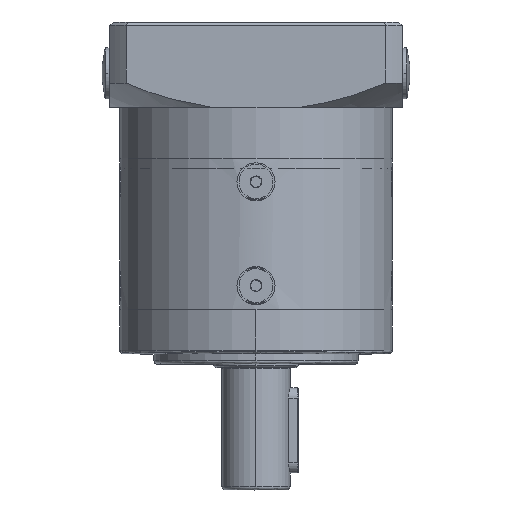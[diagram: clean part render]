
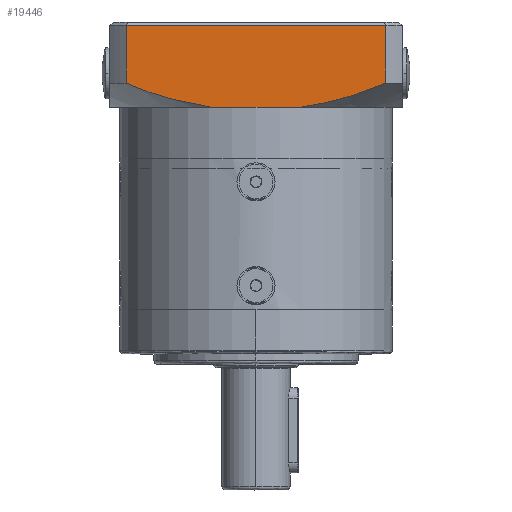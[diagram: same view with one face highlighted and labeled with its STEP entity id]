
A CAD part, top view. The second image highlights one B-rep face of the part: STEP entity #19446.
In plain terms, the highlighted planar face has unit normal (0, 0, 1).
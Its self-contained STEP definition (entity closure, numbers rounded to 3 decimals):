
#1103 = ORIENTED_EDGE ( 'NONE', *, *, #26359, .F. ) ;
#1496 = VERTEX_POINT ( 'NONE', #39712 ) ;
#2713 = DIRECTION ( 'NONE',  ( 0., 0., -1. ) ) ;
#3346 = EDGE_CURVE ( 'NONE', #36709, #24548, #18516, .T. ) ;
#5019 = EDGE_LOOP ( 'NONE', ( #15039, #14403, #24943, #1103, #13486, #9757 ) ) ;
#6006 = B_SPLINE_CURVE_WITH_KNOTS ( 'NONE', 3,
 ( #29050, #38196, #9634, #22404, #22611 ),
 .UNSPECIFIED., .F., .F.,
 ( 4, 1, 4 ),
 ( 0., 0.013, 0.026 ),
 .UNSPECIFIED. ) ;
#8694 = LINE ( 'NONE', #11218, #17109 ) ;
#9634 = CARTESIAN_POINT ( 'NONE',  ( 23.037, 114.882, 55.5 ) ) ;
#9757 = ORIENTED_EDGE ( 'NONE', *, *, #3346, .F. ) ;
#11218 = CARTESIAN_POINT ( 'NONE',  ( 35.174, 137.5, 55.5 ) ) ;
#11770 = CARTESIAN_POINT ( 'NONE',  ( -46., 137.5, 55.5 ) ) ;
#12385 = CARTESIAN_POINT ( 'NONE',  ( -41.174, 119.512, 55.5 ) ) ;
#12695 = B_SPLINE_CURVE_WITH_KNOTS ( 'NONE', 1,
 ( #28413, #37972 ),
 .UNSPECIFIED., .F., .F.,
 ( 2, 2 ),
 ( 0., 1. ),
 .UNSPECIFIED. ) ;
#13486 = ORIENTED_EDGE ( 'NONE', *, *, #27781, .F. ) ;
#14403 = ORIENTED_EDGE ( 'NONE', *, *, #15293, .F. ) ;
#15039 = ORIENTED_EDGE ( 'NONE', *, *, #20194, .F. ) ;
#15107 = CARTESIAN_POINT ( 'NONE',  ( -46., 136.5, 55.5 ) ) ;
#15278 = B_SPLINE_CURVE_WITH_KNOTS ( 'NONE', 3,
 ( #28461, #15930, #38014, #21806, #12385 ),
 .UNSPECIFIED., .F., .F.,
 ( 4, 1, 4 ),
 ( 0., 0.013, 0.026 ),
 .UNSPECIFIED. ) ;
#15293 = EDGE_CURVE ( 'NONE', #1496, #18627, #12695, .T. ) ;
#15910 = DIRECTION ( 'NONE',  ( 1., 0., 0. ) ) ;
#15930 = CARTESIAN_POINT ( 'NONE',  ( -20.577, 113.103, 55.5 ) ) ;
#16971 = AXIS2_PLACEMENT_3D ( 'NONE', #11770, #2713, #37216 ) ;
#17109 = VECTOR ( 'NONE', #40404, 1000. ) ;
#17470 = EDGE_CURVE ( 'NONE', #37470, #1496, #6006, .T. ) ;
#18516 = LINE ( 'NONE', #31195, #23878 ) ;
#18627 = VERTEX_POINT ( 'NONE', #25838 ) ;
#18949 = CARTESIAN_POINT ( 'NONE',  ( 35.174, 119.512, 55.5 ) ) ;
#19446 = ADVANCED_FACE ( 'NONE', ( #40324 ), #22207, .F. ) ;
#20194 = EDGE_CURVE ( 'NONE', #18627, #36709, #15278, .T. ) ;
#20795 = CARTESIAN_POINT ( 'NONE',  ( -41.174, 119.512, 55.5 ) ) ;
#21087 = CARTESIAN_POINT ( 'NONE',  ( 35.174, 136.5, 55.5 ) ) ;
#21806 = CARTESIAN_POINT ( 'NONE',  ( -37.182, 117.777, 55.5 ) ) ;
#22207 = PLANE ( 'NONE',  #16971 ) ;
#22404 = CARTESIAN_POINT ( 'NONE',  ( 14.577, 113.103, 55.5 ) ) ;
#22611 = CARTESIAN_POINT ( 'NONE',  ( 10.266, 112.5, 55.5 ) ) ;
#23878 = VECTOR ( 'NONE', #32000, 1000. ) ;
#24548 = VERTEX_POINT ( 'NONE', #32504 ) ;
#24943 = ORIENTED_EDGE ( 'NONE', *, *, #17470, .F. ) ;
#25838 = CARTESIAN_POINT ( 'NONE',  ( -16.266, 112.5, 55.5 ) ) ;
#26359 = EDGE_CURVE ( 'NONE', #29349, #37470, #8694, .T. ) ;
#27781 = EDGE_CURVE ( 'NONE', #24548, #29349, #30935, .T. ) ;
#28413 = CARTESIAN_POINT ( 'NONE',  ( 10.266, 112.5, 55.5 ) ) ;
#28461 = CARTESIAN_POINT ( 'NONE',  ( -16.266, 112.5, 55.5 ) ) ;
#29050 = CARTESIAN_POINT ( 'NONE',  ( 35.174, 119.512, 55.5 ) ) ;
#29349 = VERTEX_POINT ( 'NONE', #21087 ) ;
#30935 = LINE ( 'NONE', #15107, #35806 ) ;
#31195 = CARTESIAN_POINT ( 'NONE',  ( -41.174, 137.5, 55.5 ) ) ;
#32000 = DIRECTION ( 'NONE',  ( 0., 1., 0. ) ) ;
#32504 = CARTESIAN_POINT ( 'NONE',  ( -41.174, 136.5, 55.5 ) ) ;
#35806 = VECTOR ( 'NONE', #15910, 1000. ) ;
#36709 = VERTEX_POINT ( 'NONE', #20795 ) ;
#37216 = DIRECTION ( 'NONE',  ( -1., 0., 0. ) ) ;
#37470 = VERTEX_POINT ( 'NONE', #18949 ) ;
#37972 = CARTESIAN_POINT ( 'NONE',  ( -16.266, 112.5, 55.5 ) ) ;
#38014 = CARTESIAN_POINT ( 'NONE',  ( -29.037, 114.882, 55.5 ) ) ;
#38196 = CARTESIAN_POINT ( 'NONE',  ( 31.182, 117.777, 55.5 ) ) ;
#39712 = CARTESIAN_POINT ( 'NONE',  ( 10.266, 112.5, 55.5 ) ) ;
#40324 = FACE_OUTER_BOUND ( 'NONE', #5019, .T. ) ;
#40404 = DIRECTION ( 'NONE',  ( 0., -1., 0. ) ) ;
